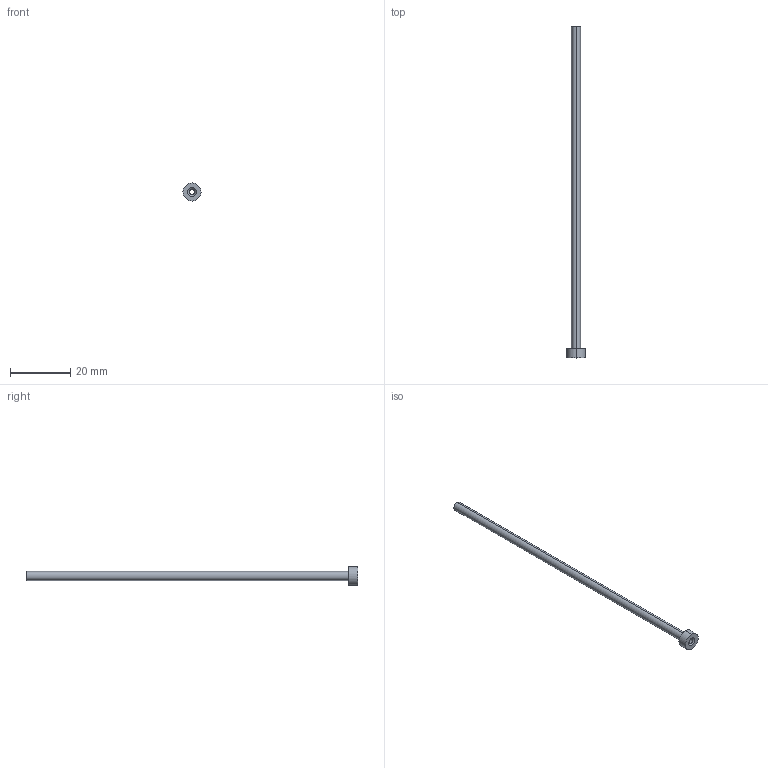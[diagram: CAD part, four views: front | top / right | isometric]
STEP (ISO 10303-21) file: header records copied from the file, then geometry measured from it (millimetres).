
FILE_DESCRIPTION (( 'STEP AP214' ), '1' );
FILE_NAME ('S_1,5x03-110.STEP', '2015-09-10T18:27:13', ( '' ), ( '' ), 'SwSTEP 2.0', 'SolidWorks 2014', '' );
FILE_SCHEMA (( 'AUTOMOTIVE_DESIGN' ));
Length unit declared in the file: millimetre
Products named in the file (1): S_1,5x03-110
Bounding box: 6 x 110 x 6 mm (x, y, z)
Volume: 560.7 mm3; surface area: 1733.8 mm2
Topology: 1 solids, 1 shells, 17 faces, 34 edges, 20 vertices
Faces by surface type: cylinder 8, cone 4, plane 3, torus 2
Entity records: 484 total; most frequent: DIRECTION 92, CARTESIAN_POINT 72, ORIENTED_EDGE 68, AXIS2_PLACEMENT_3D 40, EDGE_CURVE 34, CIRCLE 22, EDGE_LOOP 20, VERTEX_POINT 20
